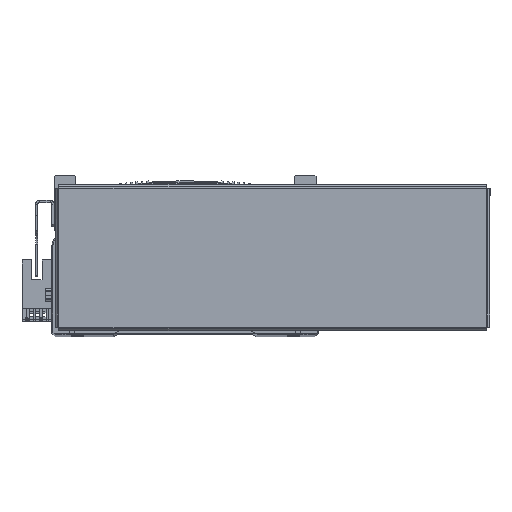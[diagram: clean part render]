
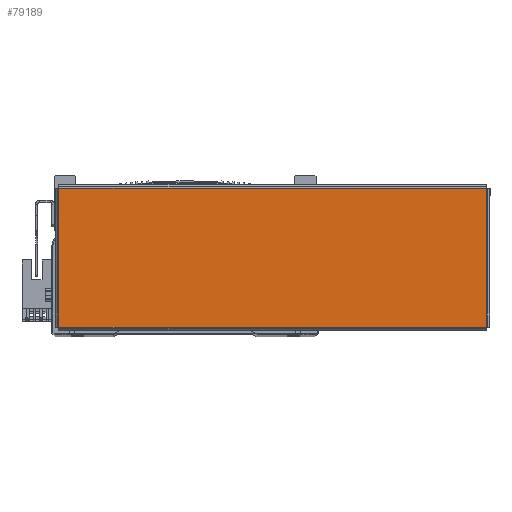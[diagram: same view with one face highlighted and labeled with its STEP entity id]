
A CAD part, top view. The second image highlights one B-rep face of the part: STEP entity #79189.
In plain terms, the highlighted planar face has unit normal (0, 0, 1) as drawn and (0, 0, -1) by its records, which use the part's own axes.
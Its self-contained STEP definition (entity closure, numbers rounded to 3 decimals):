
#4346 = EDGE_LOOP ( 'NONE', ( #56993, #57030, #57072, #57056 ) ) ;
#15687 = LINE ( 'NONE', #25334, #15761 ) ;
#15707 = LINE ( 'NONE', #25439, #15748 ) ;
#15748 = VECTOR ( 'NONE', #25453, 1000. ) ;
#15761 = VECTOR ( 'NONE', #25363, 1000. ) ;
#16875 = FACE_OUTER_BOUND ( 'NONE', #4346, .T. ) ;
#23164 = VERTEX_POINT ( 'NONE', #41909 ) ;
#23208 = VERTEX_POINT ( 'NONE', #41959 ) ;
#23213 = VERTEX_POINT ( 'NONE', #42015 ) ;
#23217 = VERTEX_POINT ( 'NONE', #42018 ) ;
#25125 = CARTESIAN_POINT ( 'NONE',  ( -97.863, -31.793, -1. ) ) ;
#25126 = DIRECTION ( 'NONE',  ( 0., 1., 0. ) ) ;
#25172 = DIRECTION ( 'NONE',  ( -1., 0., 0. ) ) ;
#25188 = CARTESIAN_POINT ( 'NONE',  ( 97.893, -31.763, -1. ) ) ;
#25334 = CARTESIAN_POINT ( 'NONE',  ( 97.863, 31.793, -1. ) ) ;
#25363 = DIRECTION ( 'NONE',  ( 0., -1., 0. ) ) ;
#25439 = CARTESIAN_POINT ( 'NONE',  ( -97.893, 31.763, -1. ) ) ;
#25453 = DIRECTION ( 'NONE',  ( 1., 0., 0. ) ) ;
#30483 = AXIS2_PLACEMENT_3D ( 'NONE', #64172, #64196, #64180 ) ;
#39617 = LINE ( 'NONE', #25125, #39624 ) ;
#39624 = VECTOR ( 'NONE', #25126, 1000. ) ;
#39660 = VECTOR ( 'NONE', #25172, 1000. ) ;
#39687 = LINE ( 'NONE', #25188, #39660 ) ;
#41909 = CARTESIAN_POINT ( 'NONE',  ( -97.863, -31.763, -1. ) ) ;
#41959 = CARTESIAN_POINT ( 'NONE',  ( -97.863, 31.763, -1. ) ) ;
#42015 = CARTESIAN_POINT ( 'NONE',  ( 97.863, 31.763, -1. ) ) ;
#42018 = CARTESIAN_POINT ( 'NONE',  ( 97.863, -31.763, -1. ) ) ;
#56993 = ORIENTED_EDGE ( 'NONE', *, *, #78234, .T. ) ;
#57030 = ORIENTED_EDGE ( 'NONE', *, *, #78180, .T. ) ;
#57056 = ORIENTED_EDGE ( 'NONE', *, *, #78253, .T. ) ;
#57072 = ORIENTED_EDGE ( 'NONE', *, *, #78159, .T. ) ;
#64172 = CARTESIAN_POINT ( 'NONE',  ( 0., 0., -1. ) ) ;
#64180 = DIRECTION ( 'NONE',  ( 1., 0., 0. ) ) ;
#64196 = DIRECTION ( 'NONE',  ( 0., 0., 1. ) ) ;
#64225 = PLANE ( 'NONE',  #30483 ) ;
#78159 = EDGE_CURVE ( 'NONE', #23164, #23208, #39617, .T. ) ;
#78180 = EDGE_CURVE ( 'NONE', #23217, #23164, #39687, .T. ) ;
#78234 = EDGE_CURVE ( 'NONE', #23213, #23217, #15687, .T. ) ;
#78253 = EDGE_CURVE ( 'NONE', #23208, #23213, #15707, .T. ) ;
#79189 = ADVANCED_FACE ( 'NONE', ( #16875 ), #64225, .F. ) ;
